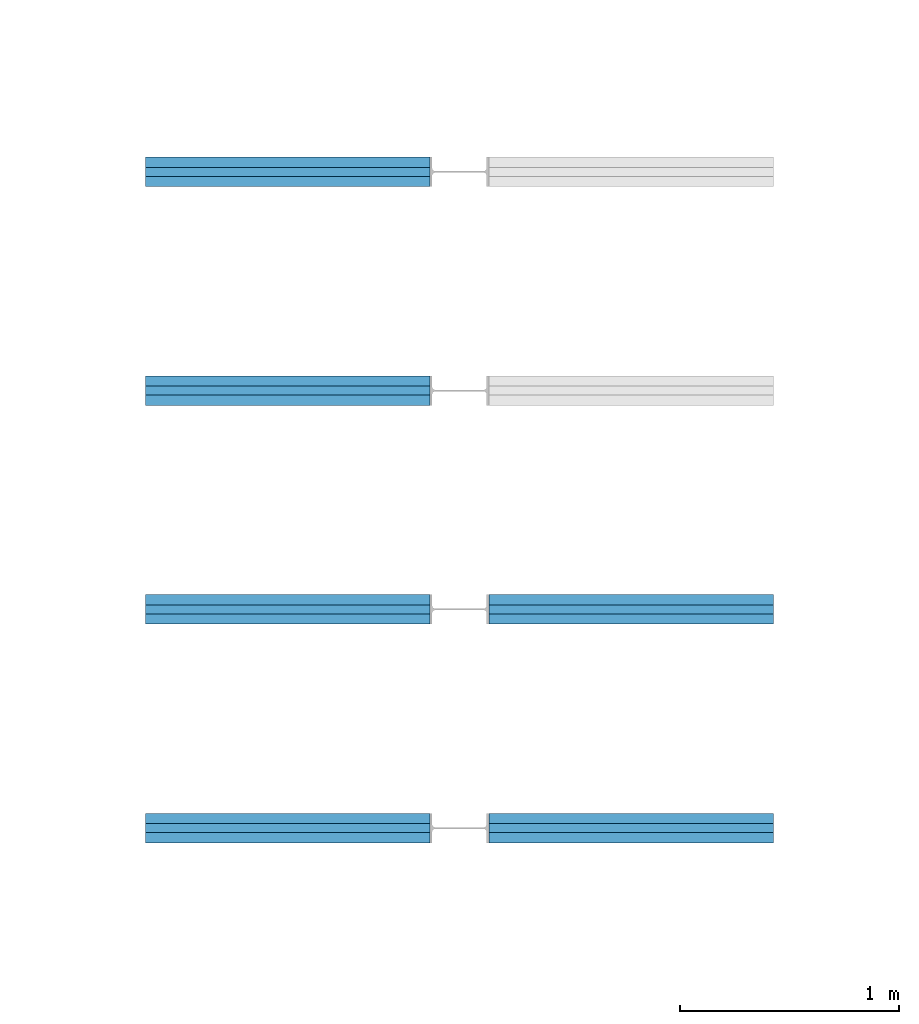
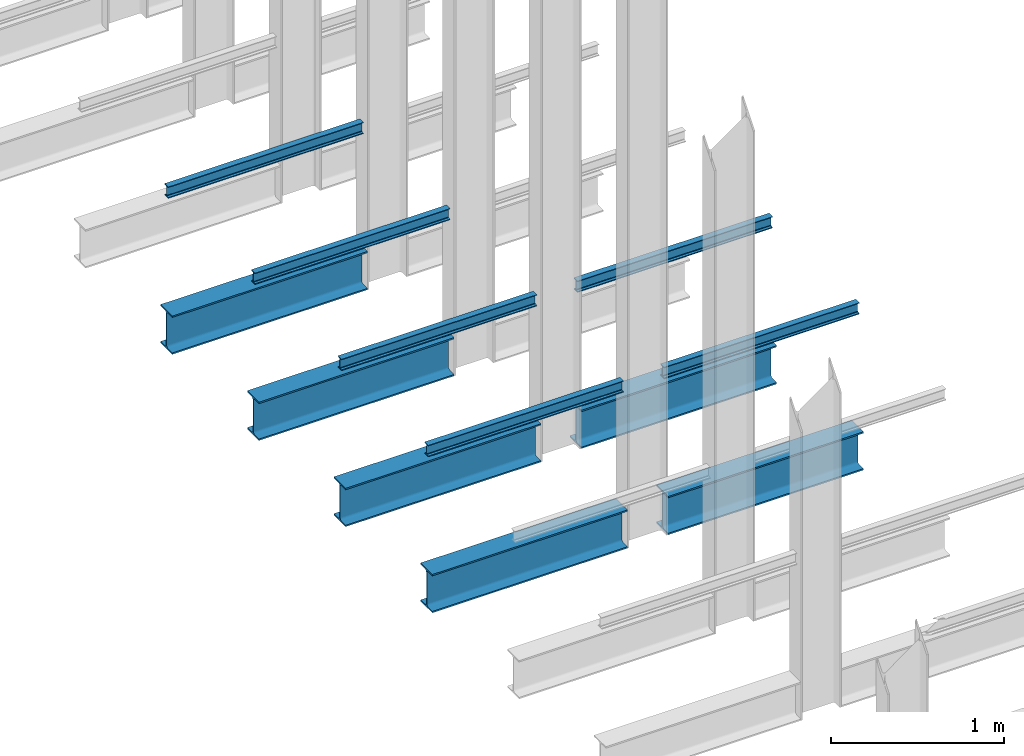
# One storey, part 173 of 302: 12 beams.
"""IFC2X3 building model written with IfcOpenShell, lengths in metres."""

from ifc_helpers import new_model, entity, si_unit, converted_unit, derived_unit, direction, frame, frame_2d, origin, place, context, subcontext, project, spatial, polyline, circle_curve, parameter, trimmed, segment, composite_curve, i_section, outline, extrude, material, type_object, element, save


model = new_model("IFC2X3")

# Units and contexts
model_context = context("Model", 3, precision=1e-05, world=origin(), true_north=direction((6.12303176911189e-17, 1.0)))
body_context = subcontext(model_context, "Body", "Model", "MODEL_VIEW")
ifc_project = project(units=[si_unit("LENGTHUNIT", "METRE"), si_unit("AREAUNIT", "SQUARE_METRE"), si_unit("VOLUMEUNIT", "CUBIC_METRE"), converted_unit("PLANEANGLEUNIT", "DEGREE", entity("IfcRatioMeasure", 0.0174532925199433), si_unit("PLANEANGLEUNIT", "RADIAN"), dimensions=[0, 0, 0, 0, 0, 0, 0]), si_unit("MASSUNIT", "GRAM", prefix="KILO"), derived_unit("MASSDENSITYUNIT", [(si_unit("MASSUNIT", "GRAM", prefix="KILO"), 1), (si_unit("LENGTHUNIT", "METRE"), -3)]), derived_unit("MOMENTOFINERTIAUNIT", [(si_unit("LENGTHUNIT", "METRE"), 4)]), si_unit("TIMEUNIT", "SECOND"), si_unit("FREQUENCYUNIT", "HERTZ"), si_unit("THERMODYNAMICTEMPERATUREUNIT", "DEGREE_CELSIUS"), derived_unit("THERMALTRANSMITTANCEUNIT", [(si_unit("MASSUNIT", "GRAM", prefix="KILO"), 1), (si_unit("THERMODYNAMICTEMPERATUREUNIT", "KELVIN"), -1), (si_unit("TIMEUNIT", "SECOND"), -3)]), derived_unit("VOLUMETRICFLOWRATEUNIT", [(si_unit("LENGTHUNIT", "METRE"), 3), (si_unit("TIMEUNIT", "SECOND"), -1)]), si_unit("ELECTRICCURRENTUNIT", "AMPERE"), si_unit("ELECTRICVOLTAGEUNIT", "VOLT"), si_unit("POWERUNIT", "WATT"), si_unit("FORCEUNIT", "NEWTON", prefix="KILO"), si_unit("ILLUMINANCEUNIT", "LUX"), si_unit("LUMINOUSFLUXUNIT", "LUMEN"), si_unit("LUMINOUSINTENSITYUNIT", "CANDELA"), derived_unit("USERDEFINED", [(si_unit("MASSUNIT", "GRAM", prefix="KILO"), -1), (si_unit("LENGTHUNIT", "METRE"), -2), (si_unit("TIMEUNIT", "SECOND"), 3), (si_unit("LUMINOUSFLUXUNIT", "LUMEN"), 1)]), derived_unit("LINEARVELOCITYUNIT", [(si_unit("LENGTHUNIT", "METRE"), 1), (si_unit("TIMEUNIT", "SECOND"), -1)]), si_unit("PRESSUREUNIT", "PASCAL"), derived_unit("USERDEFINED", [(si_unit("LENGTHUNIT", "METRE"), -2), (si_unit("MASSUNIT", "GRAM", prefix="KILO"), 1), (si_unit("TIMEUNIT", "SECOND"), -2)]), derived_unit("LINEARFORCEUNIT", [(si_unit("MASSUNIT", "GRAM", prefix="KILO"), 1), (si_unit("LENGTHUNIT", "METRE"), 1), (si_unit("TIMEUNIT", "SECOND"), -2), (si_unit("LENGTHUNIT", "METRE"), -1)]), derived_unit("PLANARFORCEUNIT", [(si_unit("MASSUNIT", "GRAM", prefix="KILO"), 1), (si_unit("LENGTHUNIT", "METRE"), 1), (si_unit("TIMEUNIT", "SECOND"), -2), (si_unit("LENGTHUNIT", "METRE"), -2)])], contexts=[model_context])

# Site, building, storey
site_placement = place(None, origin())
site = spatial("IfcSite", under=ifc_project, at=site_placement, Name="Default", CompositionType="ELEMENT")
building_placement = place(site_placement, origin())
building = spatial("IfcBuilding", under=site, at=building_placement, CompositionType="ELEMENT")
storey_placement = place(building_placement, frame((0.0, 0.0, -1.3)))
storey = spatial("IfcBuildingStorey", under=building, at=storey_placement, Name="00_EG", CompositionType="ELEMENT", Elevation=-1.3)

# Beams
ifc_material = material(Name="Metall - Baustahl S235")
beam_type_1 = type_object("IfcBeamType", Name="IPN Träger:IPN 80", PredefinedType="NOTDEFINED")
beam_1_placement = place(storey_placement, frame((-170.780111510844, 47.0365889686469, 2.42), z_axis=(0.0, 0.0, 1.0), x_axis=(-1.0, 0.0, 0.0)))
element("IfcBeam", 1, at=beam_1_placement, inside=storey, type_object=beam_type_1, material=ifc_material, Name="IPN Träger:IPN 80", ObjectType="IPN Träger:IPN 80", context=body_context, shape_type="SweptSolid", body=[
    extrude(outline(composite_curve([segment(polyline([(0.0375704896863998, -0.0209999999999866), (0.0399999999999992, -0.0209999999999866)]), True, "CONTINUOUS"), segment(polyline([(0.0399999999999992, -0.0209999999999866), (0.0399999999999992, 0.0210000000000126)]), True, "CONTINUOUS"), segment(polyline([(0.039999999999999, 0.0210000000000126), (0.037570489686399, 0.0210000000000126)]), True, "CONTINUOUS"), segment(trimmed(circle_curve(frame_2d((0.0375704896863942, 0.0187000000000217), x_axis=(0.0, 1.0)), 0.0022999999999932), [parameter(0.0)], [parameter(82.0300000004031)], True, "PARAMETER"), True, "CONTINUOUS"), segment(polyline([(0.0352927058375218, 0.0190189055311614), (0.0333732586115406, 0.00530924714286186)]), True, "CONTINUOUS"), segment(trimmed(circle_curve(frame_2d((0.0295109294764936, 0.00585000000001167), x_axis=(0.990340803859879, -0.138654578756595)), 0.00389999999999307), [parameter(277.969999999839)], [parameter(0.0)], True, "PARAMETER"), False, "CONTINUOUS"), segment(polyline([(0.0295109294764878, 0.00195000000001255), (-0.0295109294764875, 0.00195000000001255)]), True, "CONTINUOUS"), segment(trimmed(circle_curve(frame_2d((-0.0295109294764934, 0.00585000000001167), x_axis=(0.0, -1.0)), 0.00389999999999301), [parameter(277.969999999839)], [parameter(0.0)], True, "PARAMETER"), False, "CONTINUOUS"), segment(polyline([(-0.0333732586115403, 0.00530924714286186), (-0.0352927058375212, 0.0190189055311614)]), True, "CONTINUOUS"), segment(trimmed(circle_curve(frame_2d((-0.0375704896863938, 0.0187000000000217), x_axis=(0.990340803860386, 0.138654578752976)), 0.00229999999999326), [parameter(0.0)], [parameter(82.0300000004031)], True, "PARAMETER"), True, "CONTINUOUS"), segment(polyline([(-0.0375704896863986, 0.0210000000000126), (-0.0400000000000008, 0.0210000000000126)]), True, "CONTINUOUS"), segment(polyline([(-0.0400000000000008, 0.0210000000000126), (-0.0400000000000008, -0.0209999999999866)]), True, "CONTINUOUS"), segment(polyline([(-0.0400000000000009, -0.0209999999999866), (-0.037570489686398, -0.0209999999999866)]), True, "CONTINUOUS"), segment(trimmed(circle_curve(frame_2d((-0.0375704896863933, -0.0186999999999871), x_axis=(0.0, -1.0)), 0.00229999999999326), [parameter(0.0)], [parameter(82.0300000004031)], True, "PARAMETER"), True, "CONTINUOUS"), segment(polyline([(-0.0352927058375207, -0.0190189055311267), (-0.0333732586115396, -0.00530924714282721)]), True, "CONTINUOUS"), segment(trimmed(circle_curve(frame_2d((-0.0295109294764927, -0.00584999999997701), x_axis=(-0.990340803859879, 0.138654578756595)), 0.00389999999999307), [parameter(277.969999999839)], [parameter(0.0)], True, "PARAMETER"), False, "CONTINUOUS"), segment(polyline([(-0.0295109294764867, -0.00194999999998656), (0.0295109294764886, -0.00194999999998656)]), True, "CONTINUOUS"), segment(trimmed(circle_curve(frame_2d((0.0295109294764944, -0.00584999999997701), x_axis=(0.0, 1.0)), 0.00389999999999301), [parameter(277.969999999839)], [parameter(0.0)], True, "PARAMETER"), False, "CONTINUOUS"), segment(polyline([(0.0333732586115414, -0.00530924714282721), (0.0352927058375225, -0.0190189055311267)]), True, "CONTINUOUS"), segment(trimmed(circle_curve(frame_2d((0.0375704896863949, -0.0186999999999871), x_axis=(-0.990340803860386, -0.138654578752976)), 0.00229999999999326), [parameter(0.0)], [parameter(82.0300000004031)], True, "PARAMETER"), True, "CONTINUOUS")], self_intersect=False)), frame((0.000100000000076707, 0.0209999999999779, -0.0400000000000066), z_axis=(1.0, 0.0, 0.0), x_axis=(0.0, 0.0, -1.0)), (0.0, 0.0, 1.0), 1.29990000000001),
])
beam_2_placement = place(storey_placement, frame((-170.780111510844, 46.0365889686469, 2.42), z_axis=(0.0, 0.0, 1.0), x_axis=(-1.0, 0.0, 0.0)))
element("IfcBeam", 2, at=beam_2_placement, inside=storey, type_object=beam_type_1, material=ifc_material, Name="IPN Träger:IPN 80", ObjectType="IPN Träger:IPN 80", context=body_context, shape_type="SweptSolid", body=[
    extrude(outline(composite_curve([segment(polyline([(0.0375704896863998, -0.0209999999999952), (0.0399999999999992, -0.0209999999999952)]), True, "CONTINUOUS"), segment(polyline([(0.0399999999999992, -0.0209999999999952), (0.0399999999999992, 0.0210000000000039)]), True, "CONTINUOUS"), segment(polyline([(0.039999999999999, 0.0210000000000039), (0.037570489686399, 0.0210000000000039)]), True, "CONTINUOUS"), segment(trimmed(circle_curve(frame_2d((0.0375704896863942, 0.0187000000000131), x_axis=(0.0, 1.0)), 0.0022999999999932), [parameter(0.0)], [parameter(82.0300000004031)], True, "PARAMETER"), True, "CONTINUOUS"), segment(polyline([(0.0352927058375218, 0.0190189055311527), (0.0333732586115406, 0.0053092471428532)]), True, "CONTINUOUS"), segment(trimmed(circle_curve(frame_2d((0.0295109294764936, 0.005850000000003), x_axis=(0.990340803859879, -0.138654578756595)), 0.00389999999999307), [parameter(277.969999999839)], [parameter(0.0)], True, "PARAMETER"), False, "CONTINUOUS"), segment(polyline([(0.0295109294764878, 0.00195000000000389), (-0.0295109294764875, 0.00195000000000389)]), True, "CONTINUOUS"), segment(trimmed(circle_curve(frame_2d((-0.0295109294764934, 0.005850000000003), x_axis=(0.0, -1.0)), 0.00389999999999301), [parameter(277.969999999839)], [parameter(0.0)], True, "PARAMETER"), False, "CONTINUOUS"), segment(polyline([(-0.0333732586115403, 0.0053092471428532), (-0.0352927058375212, 0.0190189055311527)]), True, "CONTINUOUS"), segment(trimmed(circle_curve(frame_2d((-0.0375704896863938, 0.0187000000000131), x_axis=(0.990340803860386, 0.138654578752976)), 0.00229999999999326), [parameter(0.0)], [parameter(82.0300000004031)], True, "PARAMETER"), True, "CONTINUOUS"), segment(polyline([(-0.0375704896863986, 0.0210000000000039), (-0.0400000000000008, 0.0210000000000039)]), True, "CONTINUOUS"), segment(polyline([(-0.0400000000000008, 0.0210000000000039), (-0.0400000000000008, -0.0209999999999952)]), True, "CONTINUOUS"), segment(polyline([(-0.0400000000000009, -0.0209999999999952), (-0.037570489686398, -0.0209999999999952)]), True, "CONTINUOUS"), segment(trimmed(circle_curve(frame_2d((-0.0375704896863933, -0.0186999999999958), x_axis=(0.0, -1.0)), 0.00229999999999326), [parameter(0.0)], [parameter(82.0300000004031)], True, "PARAMETER"), True, "CONTINUOUS"), segment(polyline([(-0.0352927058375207, -0.0190189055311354), (-0.0333732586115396, -0.00530924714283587)]), True, "CONTINUOUS"), segment(trimmed(circle_curve(frame_2d((-0.0295109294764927, -0.00584999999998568), x_axis=(-0.990340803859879, 0.138654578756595)), 0.00389999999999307), [parameter(277.969999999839)], [parameter(0.0)], True, "PARAMETER"), False, "CONTINUOUS"), segment(polyline([(-0.0295109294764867, -0.00194999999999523), (0.0295109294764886, -0.00194999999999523)]), True, "CONTINUOUS"), segment(trimmed(circle_curve(frame_2d((0.0295109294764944, -0.00584999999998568), x_axis=(0.0, 1.0)), 0.00389999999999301), [parameter(277.969999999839)], [parameter(0.0)], True, "PARAMETER"), False, "CONTINUOUS"), segment(polyline([(0.0333732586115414, -0.00530924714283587), (0.0352927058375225, -0.0190189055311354)]), True, "CONTINUOUS"), segment(trimmed(circle_curve(frame_2d((0.0375704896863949, -0.0186999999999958), x_axis=(-0.990340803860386, -0.138654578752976)), 0.00229999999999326), [parameter(0.0)], [parameter(82.0300000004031)], True, "PARAMETER"), True, "CONTINUOUS")], self_intersect=False)), frame((0.000100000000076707, 0.0209999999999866, -0.0400000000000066), z_axis=(1.0, 0.0, 0.0), x_axis=(0.0, 0.0, -1.0)), (0.0, 0.0, 1.0), 1.29990000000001),
])
beam_3_placement = place(storey_placement, frame((-170.510111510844, 44.9945889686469, 2.42)))
element("IfcBeam", 3, at=beam_3_placement, inside=storey, type_object=beam_type_1, material=ifc_material, Name="IPN Träger:IPN 80", ObjectType="IPN Träger:IPN 80", context=body_context, shape_type="SweptSolid", body=[
    extrude(outline(composite_curve([segment(polyline([(0.0375704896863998, -0.0210000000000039), (0.0399999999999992, -0.0210000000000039)]), True, "CONTINUOUS"), segment(polyline([(0.0399999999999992, -0.0210000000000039), (0.0399999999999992, 0.0209999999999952)]), True, "CONTINUOUS"), segment(polyline([(0.039999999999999, 0.0209999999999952), (0.037570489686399, 0.0209999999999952)]), True, "CONTINUOUS"), segment(trimmed(circle_curve(frame_2d((0.0375704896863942, 0.0187000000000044), x_axis=(0.0, 1.0)), 0.0022999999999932), [parameter(0.0)], [parameter(82.0300000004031)], True, "PARAMETER"), True, "CONTINUOUS"), segment(polyline([(0.0352927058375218, 0.019018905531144), (0.0333732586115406, 0.00530924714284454)]), True, "CONTINUOUS"), segment(trimmed(circle_curve(frame_2d((0.0295109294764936, 0.00584999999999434), x_axis=(0.990340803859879, -0.138654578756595)), 0.00389999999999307), [parameter(277.969999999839)], [parameter(0.0)], True, "PARAMETER"), False, "CONTINUOUS"), segment(polyline([(0.0295109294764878, 0.00194999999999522), (-0.0295109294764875, 0.00194999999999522)]), True, "CONTINUOUS"), segment(trimmed(circle_curve(frame_2d((-0.0295109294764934, 0.00584999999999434), x_axis=(0.0, -1.0)), 0.00389999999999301), [parameter(277.969999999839)], [parameter(0.0)], True, "PARAMETER"), False, "CONTINUOUS"), segment(polyline([(-0.0333732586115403, 0.00530924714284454), (-0.0352927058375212, 0.019018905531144)]), True, "CONTINUOUS"), segment(trimmed(circle_curve(frame_2d((-0.0375704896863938, 0.0187000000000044), x_axis=(0.990340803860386, 0.138654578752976)), 0.00229999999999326), [parameter(0.0)], [parameter(82.0300000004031)], True, "PARAMETER"), True, "CONTINUOUS"), segment(polyline([(-0.0375704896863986, 0.0209999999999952), (-0.0400000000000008, 0.0209999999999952)]), True, "CONTINUOUS"), segment(polyline([(-0.0400000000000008, 0.0209999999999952), (-0.0400000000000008, -0.0210000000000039)]), True, "CONTINUOUS"), segment(polyline([(-0.0400000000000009, -0.0210000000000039), (-0.037570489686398, -0.0210000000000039)]), True, "CONTINUOUS"), segment(trimmed(circle_curve(frame_2d((-0.0375704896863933, -0.0187000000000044), x_axis=(0.0, -1.0)), 0.00229999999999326), [parameter(0.0)], [parameter(82.0300000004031)], True, "PARAMETER"), True, "CONTINUOUS"), segment(polyline([(-0.0352927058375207, -0.019018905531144), (-0.0333732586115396, -0.00530924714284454)]), True, "CONTINUOUS"), segment(trimmed(circle_curve(frame_2d((-0.0295109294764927, -0.00584999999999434), x_axis=(-0.990340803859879, 0.138654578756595)), 0.00389999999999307), [parameter(277.969999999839)], [parameter(0.0)], True, "PARAMETER"), False, "CONTINUOUS"), segment(polyline([(-0.0295109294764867, -0.00195000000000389), (0.0295109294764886, -0.00195000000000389)]), True, "CONTINUOUS"), segment(trimmed(circle_curve(frame_2d((0.0295109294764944, -0.00584999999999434), x_axis=(0.0, 1.0)), 0.00389999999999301), [parameter(277.969999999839)], [parameter(0.0)], True, "PARAMETER"), False, "CONTINUOUS"), segment(polyline([(0.0333732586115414, -0.00530924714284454), (0.0352927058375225, -0.019018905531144)]), True, "CONTINUOUS"), segment(trimmed(circle_curve(frame_2d((0.0375704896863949, -0.0187000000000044), x_axis=(-0.990340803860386, -0.138654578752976)), 0.00229999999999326), [parameter(0.0)], [parameter(82.0300000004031)], True, "PARAMETER"), True, "CONTINUOUS")], self_intersect=False)), frame((0.000100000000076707, 0.0209999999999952, -0.0400000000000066), z_axis=(1.0, 0.0, 0.0), x_axis=(0.0, 0.0, -1.0)), (0.0, 0.0, 1.0), 1.29990000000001),
])
beam_4_placement = place(storey_placement, frame((-170.780111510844, 45.0365889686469, 2.42), z_axis=(0.0, 0.0, 1.0), x_axis=(-1.0, 0.0, 0.0)))
element("IfcBeam", 4, at=beam_4_placement, inside=storey, type_object=beam_type_1, material=ifc_material, Name="IPN Träger:IPN 80", ObjectType="IPN Träger:IPN 80", context=body_context, shape_type="SweptSolid", body=[
    extrude(outline(composite_curve([segment(polyline([(0.0375704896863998, -0.0210000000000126), (0.0399999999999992, -0.0210000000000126)]), True, "CONTINUOUS"), segment(polyline([(0.0399999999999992, -0.0210000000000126), (0.0399999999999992, 0.0209999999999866)]), True, "CONTINUOUS"), segment(polyline([(0.039999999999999, 0.0209999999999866), (0.037570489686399, 0.0209999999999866)]), True, "CONTINUOUS"), segment(trimmed(circle_curve(frame_2d((0.0375704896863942, 0.0186999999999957), x_axis=(0.0, 1.0)), 0.0022999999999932), [parameter(0.0)], [parameter(82.0300000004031)], True, "PARAMETER"), True, "CONTINUOUS"), segment(polyline([(0.0352927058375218, 0.0190189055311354), (0.0333732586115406, 0.00530924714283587)]), True, "CONTINUOUS"), segment(trimmed(circle_curve(frame_2d((0.0295109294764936, 0.00584999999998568), x_axis=(0.990340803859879, -0.138654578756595)), 0.00389999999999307), [parameter(277.969999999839)], [parameter(0.0)], True, "PARAMETER"), False, "CONTINUOUS"), segment(polyline([(0.0295109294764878, 0.00194999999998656), (-0.0295109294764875, 0.00194999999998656)]), True, "CONTINUOUS"), segment(trimmed(circle_curve(frame_2d((-0.0295109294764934, 0.00584999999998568), x_axis=(0.0, -1.0)), 0.00389999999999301), [parameter(277.969999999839)], [parameter(0.0)], True, "PARAMETER"), False, "CONTINUOUS"), segment(polyline([(-0.0333732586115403, 0.00530924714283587), (-0.0352927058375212, 0.0190189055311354)]), True, "CONTINUOUS"), segment(trimmed(circle_curve(frame_2d((-0.0375704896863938, 0.0186999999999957), x_axis=(0.990340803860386, 0.138654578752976)), 0.00229999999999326), [parameter(0.0)], [parameter(82.0300000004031)], True, "PARAMETER"), True, "CONTINUOUS"), segment(polyline([(-0.0375704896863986, 0.0209999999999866), (-0.0400000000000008, 0.0209999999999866)]), True, "CONTINUOUS"), segment(polyline([(-0.0400000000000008, 0.0209999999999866), (-0.0400000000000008, -0.0210000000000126)]), True, "CONTINUOUS"), segment(polyline([(-0.0400000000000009, -0.0210000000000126), (-0.037570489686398, -0.0210000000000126)]), True, "CONTINUOUS"), segment(trimmed(circle_curve(frame_2d((-0.0375704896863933, -0.0187000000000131), x_axis=(0.0, -1.0)), 0.00229999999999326), [parameter(0.0)], [parameter(82.0300000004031)], True, "PARAMETER"), True, "CONTINUOUS"), segment(polyline([(-0.0352927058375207, -0.0190189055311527), (-0.0333732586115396, -0.0053092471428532)]), True, "CONTINUOUS"), segment(trimmed(circle_curve(frame_2d((-0.0295109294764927, -0.005850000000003), x_axis=(-0.990340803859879, 0.138654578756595)), 0.00389999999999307), [parameter(277.969999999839)], [parameter(0.0)], True, "PARAMETER"), False, "CONTINUOUS"), segment(polyline([(-0.0295109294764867, -0.00195000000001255), (0.0295109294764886, -0.00195000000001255)]), True, "CONTINUOUS"), segment(trimmed(circle_curve(frame_2d((0.0295109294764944, -0.005850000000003), x_axis=(0.0, 1.0)), 0.00389999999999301), [parameter(277.969999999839)], [parameter(0.0)], True, "PARAMETER"), False, "CONTINUOUS"), segment(polyline([(0.0333732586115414, -0.0053092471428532), (0.0352927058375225, -0.0190189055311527)]), True, "CONTINUOUS"), segment(trimmed(circle_curve(frame_2d((0.0375704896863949, -0.0187000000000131), x_axis=(-0.990340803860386, -0.138654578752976)), 0.00229999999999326), [parameter(0.0)], [parameter(82.0300000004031)], True, "PARAMETER"), True, "CONTINUOUS")], self_intersect=False)), frame((0.000100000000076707, 0.0210000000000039, -0.0400000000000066), z_axis=(1.0, 0.0, 0.0), x_axis=(0.0, 0.0, -1.0)), (0.0, 0.0, 1.0), 1.29990000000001),
])
beam_5_placement = place(storey_placement, frame((-170.510111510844, 43.9945889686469, 2.42)))
element("IfcBeam", 5, at=beam_5_placement, inside=storey, type_object=beam_type_1, material=ifc_material, Name="IPN Träger:IPN 80", ObjectType="IPN Träger:IPN 80", context=body_context, shape_type="SweptSolid", body=[
    extrude(outline(composite_curve([segment(polyline([(0.0375704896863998, -0.0209999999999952), (0.0399999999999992, -0.0209999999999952)]), True, "CONTINUOUS"), segment(polyline([(0.0399999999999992, -0.0209999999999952), (0.0399999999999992, 0.0210000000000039)]), True, "CONTINUOUS"), segment(polyline([(0.039999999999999, 0.0210000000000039), (0.037570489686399, 0.0210000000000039)]), True, "CONTINUOUS"), segment(trimmed(circle_curve(frame_2d((0.0375704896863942, 0.0187000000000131), x_axis=(0.0, 1.0)), 0.0022999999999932), [parameter(0.0)], [parameter(82.0300000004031)], True, "PARAMETER"), True, "CONTINUOUS"), segment(polyline([(0.0352927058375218, 0.0190189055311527), (0.0333732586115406, 0.0053092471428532)]), True, "CONTINUOUS"), segment(trimmed(circle_curve(frame_2d((0.0295109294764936, 0.005850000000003), x_axis=(0.990340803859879, -0.138654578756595)), 0.00389999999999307), [parameter(277.969999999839)], [parameter(0.0)], True, "PARAMETER"), False, "CONTINUOUS"), segment(polyline([(0.0295109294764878, 0.00195000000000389), (-0.0295109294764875, 0.00195000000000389)]), True, "CONTINUOUS"), segment(trimmed(circle_curve(frame_2d((-0.0295109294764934, 0.005850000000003), x_axis=(0.0, -1.0)), 0.00389999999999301), [parameter(277.969999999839)], [parameter(0.0)], True, "PARAMETER"), False, "CONTINUOUS"), segment(polyline([(-0.0333732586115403, 0.0053092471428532), (-0.0352927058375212, 0.0190189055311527)]), True, "CONTINUOUS"), segment(trimmed(circle_curve(frame_2d((-0.0375704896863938, 0.0187000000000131), x_axis=(0.990340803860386, 0.138654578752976)), 0.00229999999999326), [parameter(0.0)], [parameter(82.0300000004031)], True, "PARAMETER"), True, "CONTINUOUS"), segment(polyline([(-0.0375704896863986, 0.0210000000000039), (-0.0400000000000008, 0.0210000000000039)]), True, "CONTINUOUS"), segment(polyline([(-0.0400000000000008, 0.0210000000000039), (-0.0400000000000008, -0.0209999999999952)]), True, "CONTINUOUS"), segment(polyline([(-0.0400000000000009, -0.0209999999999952), (-0.037570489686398, -0.0209999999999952)]), True, "CONTINUOUS"), segment(trimmed(circle_curve(frame_2d((-0.0375704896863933, -0.0186999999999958), x_axis=(0.0, -1.0)), 0.00229999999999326), [parameter(0.0)], [parameter(82.0300000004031)], True, "PARAMETER"), True, "CONTINUOUS"), segment(polyline([(-0.0352927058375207, -0.0190189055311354), (-0.0333732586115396, -0.00530924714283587)]), True, "CONTINUOUS"), segment(trimmed(circle_curve(frame_2d((-0.0295109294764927, -0.00584999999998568), x_axis=(-0.990340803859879, 0.138654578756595)), 0.00389999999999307), [parameter(277.969999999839)], [parameter(0.0)], True, "PARAMETER"), False, "CONTINUOUS"), segment(polyline([(-0.0295109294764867, -0.00194999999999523), (0.0295109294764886, -0.00194999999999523)]), True, "CONTINUOUS"), segment(trimmed(circle_curve(frame_2d((0.0295109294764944, -0.00584999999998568), x_axis=(0.0, 1.0)), 0.00389999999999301), [parameter(277.969999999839)], [parameter(0.0)], True, "PARAMETER"), False, "CONTINUOUS"), segment(polyline([(0.0333732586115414, -0.00530924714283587), (0.0352927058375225, -0.0190189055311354)]), True, "CONTINUOUS"), segment(trimmed(circle_curve(frame_2d((0.0375704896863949, -0.0186999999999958), x_axis=(-0.990340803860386, -0.138654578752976)), 0.00229999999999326), [parameter(0.0)], [parameter(82.0300000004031)], True, "PARAMETER"), True, "CONTINUOUS")], self_intersect=False)), frame((0.000100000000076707, 0.0209999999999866, -0.0400000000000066), z_axis=(1.0, 0.0, 0.0), x_axis=(0.0, 0.0, -1.0)), (0.0, 0.0, 1.0), 1.29990000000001),
])
beam_6_placement = place(storey_placement, frame((-170.780111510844, 44.0365889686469, 2.42), z_axis=(0.0, 0.0, 1.0), x_axis=(-1.0, 0.0, 0.0)))
element("IfcBeam", 6, at=beam_6_placement, inside=storey, type_object=beam_type_1, material=ifc_material, Name="IPN Träger:IPN 80", ObjectType="IPN Träger:IPN 80", context=body_context, shape_type="SweptSolid", body=[
    extrude(outline(composite_curve([segment(polyline([(0.0375704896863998, -0.0209999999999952), (0.0399999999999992, -0.0209999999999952)]), True, "CONTINUOUS"), segment(polyline([(0.0399999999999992, -0.0209999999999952), (0.0399999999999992, 0.0210000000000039)]), True, "CONTINUOUS"), segment(polyline([(0.039999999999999, 0.0210000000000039), (0.037570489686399, 0.0210000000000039)]), True, "CONTINUOUS"), segment(trimmed(circle_curve(frame_2d((0.0375704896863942, 0.0187000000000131), x_axis=(0.0, 1.0)), 0.0022999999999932), [parameter(0.0)], [parameter(82.0300000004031)], True, "PARAMETER"), True, "CONTINUOUS"), segment(polyline([(0.0352927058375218, 0.0190189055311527), (0.0333732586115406, 0.0053092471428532)]), True, "CONTINUOUS"), segment(trimmed(circle_curve(frame_2d((0.0295109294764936, 0.005850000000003), x_axis=(0.990340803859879, -0.138654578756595)), 0.00389999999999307), [parameter(277.969999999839)], [parameter(0.0)], True, "PARAMETER"), False, "CONTINUOUS"), segment(polyline([(0.0295109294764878, 0.00195000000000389), (-0.0295109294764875, 0.00195000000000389)]), True, "CONTINUOUS"), segment(trimmed(circle_curve(frame_2d((-0.0295109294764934, 0.005850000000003), x_axis=(0.0, -1.0)), 0.00389999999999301), [parameter(277.969999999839)], [parameter(0.0)], True, "PARAMETER"), False, "CONTINUOUS"), segment(polyline([(-0.0333732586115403, 0.0053092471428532), (-0.0352927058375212, 0.0190189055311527)]), True, "CONTINUOUS"), segment(trimmed(circle_curve(frame_2d((-0.0375704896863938, 0.0187000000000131), x_axis=(0.990340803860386, 0.138654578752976)), 0.00229999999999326), [parameter(0.0)], [parameter(82.0300000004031)], True, "PARAMETER"), True, "CONTINUOUS"), segment(polyline([(-0.0375704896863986, 0.0210000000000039), (-0.0400000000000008, 0.0210000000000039)]), True, "CONTINUOUS"), segment(polyline([(-0.0400000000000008, 0.0210000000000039), (-0.0400000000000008, -0.0209999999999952)]), True, "CONTINUOUS"), segment(polyline([(-0.0400000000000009, -0.0209999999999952), (-0.037570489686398, -0.0209999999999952)]), True, "CONTINUOUS"), segment(trimmed(circle_curve(frame_2d((-0.0375704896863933, -0.0186999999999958), x_axis=(0.0, -1.0)), 0.00229999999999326), [parameter(0.0)], [parameter(82.0300000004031)], True, "PARAMETER"), True, "CONTINUOUS"), segment(polyline([(-0.0352927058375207, -0.0190189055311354), (-0.0333732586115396, -0.00530924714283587)]), True, "CONTINUOUS"), segment(trimmed(circle_curve(frame_2d((-0.0295109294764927, -0.00584999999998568), x_axis=(-0.990340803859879, 0.138654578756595)), 0.00389999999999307), [parameter(277.969999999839)], [parameter(0.0)], True, "PARAMETER"), False, "CONTINUOUS"), segment(polyline([(-0.0295109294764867, -0.00194999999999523), (0.0295109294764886, -0.00194999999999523)]), True, "CONTINUOUS"), segment(trimmed(circle_curve(frame_2d((0.0295109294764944, -0.00584999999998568), x_axis=(0.0, 1.0)), 0.00389999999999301), [parameter(277.969999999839)], [parameter(0.0)], True, "PARAMETER"), False, "CONTINUOUS"), segment(polyline([(0.0333732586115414, -0.00530924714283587), (0.0352927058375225, -0.0190189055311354)]), True, "CONTINUOUS"), segment(trimmed(circle_curve(frame_2d((0.0375704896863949, -0.0186999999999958), x_axis=(-0.990340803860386, -0.138654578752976)), 0.00229999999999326), [parameter(0.0)], [parameter(82.0300000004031)], True, "PARAMETER"), True, "CONTINUOUS")], self_intersect=False)), frame((0.000100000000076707, 0.0209999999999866, -0.0400000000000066), z_axis=(1.0, 0.0, 0.0), x_axis=(0.0, 0.0, -1.0)), (0.0, 0.0, 1.0), 1.29990000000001),
])
beam_type_2 = type_object("IfcBeamType", Name="IPE Träger:IPE 270", PredefinedType="NOTDEFINED")
beam_7_placement = place(storey_placement, frame((-170.780111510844, 44.0830889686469, 1.54000000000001), z_axis=(0.0, 0.0, 1.0), x_axis=(-1.0, 0.0, 0.0)))
element("IfcBeam", 7, at=beam_7_placement, inside=storey, type_object=beam_type_2, material=ifc_material, Name="IPE Träger:IPE 270", ObjectType="IPE Träger:IPE 270", context=body_context, shape_type="SweptSolid", body=[
    extrude(i_section(OverallWidth=0.134999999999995, OverallDepth=0.27, WebThickness=0.0065999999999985, FlangeThickness=0.0102000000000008, FilletRadius=0.0149999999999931, at=frame_2d((5.96744875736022e-16, 0.0), x_axis=(0.0, 1.0))), frame((0.000100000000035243, 0.067500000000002, -0.135000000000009), z_axis=(1.0, 0.0, 0.0), x_axis=(0.0, 0.0, -1.0)), (0.0, 0.0, 1.0), 1.29990000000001),
])
beam_8_placement = place(storey_placement, frame((-170.510111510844, 44.0830889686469, 1.54000000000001)))
element("IfcBeam", 8, at=beam_8_placement, inside=storey, type_object=beam_type_2, material=ifc_material, Name="IPE Träger:IPE 270", ObjectType="IPE Träger:IPE 270", context=body_context, shape_type="SweptSolid", body=[
    extrude(i_section(OverallWidth=0.134999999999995, OverallDepth=0.27, WebThickness=0.0065999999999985, FlangeThickness=0.0102000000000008, FilletRadius=0.0149999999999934, at=frame_2d((5.96744875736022e-16, 0.0), x_axis=(0.0, 1.0))), frame((0.000100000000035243, -0.067500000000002, -0.135000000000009), z_axis=(1.0, 0.0, 0.0), x_axis=(0.0, 0.0, -1.0)), (0.0, 0.0, 1.0), 1.29990000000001),
])
beam_9_placement = place(storey_placement, frame((-170.780111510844, 45.0830889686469, 1.54000000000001), z_axis=(0.0, 0.0, 1.0), x_axis=(-1.0, 0.0, 0.0)))
element("IfcBeam", 9, at=beam_9_placement, inside=storey, type_object=beam_type_2, material=ifc_material, Name="IPE Träger:IPE 270", ObjectType="IPE Träger:IPE 270", context=body_context, shape_type="SweptSolid", body=[
    extrude(i_section(OverallWidth=0.134999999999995, OverallDepth=0.27, WebThickness=0.0065999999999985, FlangeThickness=0.0102000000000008, FilletRadius=0.0149999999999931, at=frame_2d((5.96744875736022e-16, -8.66667848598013e-15), x_axis=(0.0, 1.0))), frame((0.000100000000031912, 0.0675000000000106, -0.135000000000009), z_axis=(1.0, 0.0, 0.0), x_axis=(0.0, 0.0, -1.0)), (0.0, 0.0, 1.0), 1.29990000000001),
])
beam_10_placement = place(storey_placement, frame((-170.510111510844, 45.0830889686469, 1.54000000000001)))
element("IfcBeam", 10, at=beam_10_placement, inside=storey, type_object=beam_type_2, material=ifc_material, Name="IPE Träger:IPE 270", ObjectType="IPE Träger:IPE 270", context=body_context, shape_type="SweptSolid", body=[
    extrude(i_section(OverallWidth=0.134999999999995, OverallDepth=0.27, WebThickness=0.0065999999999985, FlangeThickness=0.0102000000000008, FilletRadius=0.0149999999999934, at=frame_2d((5.96744875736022e-16, -8.66667848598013e-15), x_axis=(0.0, 1.0))), frame((0.000100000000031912, -0.0674999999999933, -0.135000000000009), z_axis=(1.0, 0.0, 0.0), x_axis=(0.0, 0.0, -1.0)), (0.0, 0.0, 1.0), 1.29990000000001),
])
beam_11_placement = place(storey_placement, frame((-170.780111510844, 46.0830889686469, 1.54000000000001), z_axis=(0.0, 0.0, 1.0), x_axis=(-1.0, 0.0, 0.0)))
element("IfcBeam", 11, at=beam_11_placement, inside=storey, type_object=beam_type_2, material=ifc_material, Name="IPE Träger:IPE 270", ObjectType="IPE Träger:IPE 270", context=body_context, shape_type="SweptSolid", body=[
    extrude(i_section(OverallWidth=0.134999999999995, OverallDepth=0.27, WebThickness=0.0065999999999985, FlangeThickness=0.0102000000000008, FilletRadius=0.0149999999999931, at=frame_2d((5.96744875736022e-16, 0.0), x_axis=(0.0, 1.0))), frame((0.00010000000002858, 0.067500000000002, -0.135000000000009), z_axis=(1.0, 0.0, 0.0), x_axis=(0.0, 0.0, -1.0)), (0.0, 0.0, 1.0), 1.29990000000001),
])
beam_12_placement = place(storey_placement, frame((-170.780111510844, 47.0830889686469, 1.54000000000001), z_axis=(0.0, 0.0, 1.0), x_axis=(-1.0, 0.0, 0.0)))
element("IfcBeam", 12, at=beam_12_placement, inside=storey, type_object=beam_type_2, material=ifc_material, Name="IPE Träger:IPE 270", ObjectType="IPE Träger:IPE 270", context=body_context, shape_type="SweptSolid", body=[
    extrude(i_section(OverallWidth=0.134999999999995, OverallDepth=0.27, WebThickness=0.0065999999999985, FlangeThickness=0.0102000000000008, FilletRadius=0.0149999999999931, at=frame_2d((5.96744875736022e-16, -8.66667848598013e-15), x_axis=(0.0, 1.0))), frame((0.0001000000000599, 0.0675000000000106, -0.135000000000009), z_axis=(1.0, 0.0, 0.0), x_axis=(0.0, 0.0, -1.0)), (0.0, 0.0, 1.0), 1.29990000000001),
])

save(model, "model.ifc")
